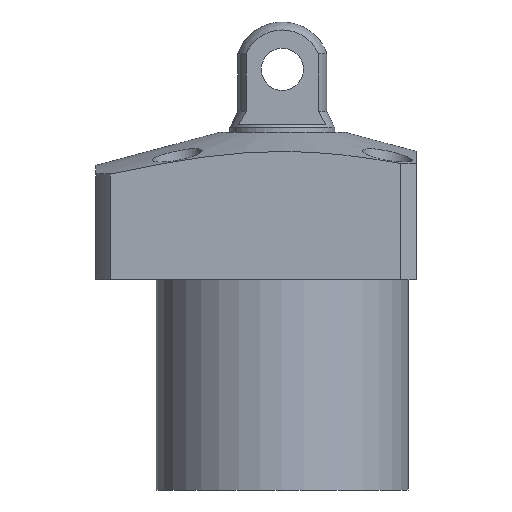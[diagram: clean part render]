
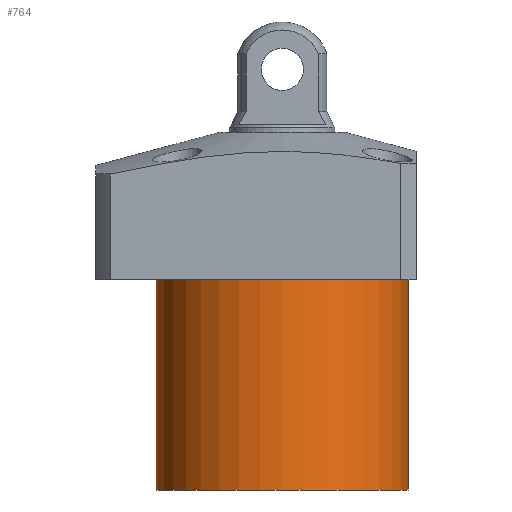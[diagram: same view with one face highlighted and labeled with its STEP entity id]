
A CAD part, front view. The second image highlights one B-rep face of the part: STEP entity #764.
In plain terms, the highlighted cylindrical face has radius 24 mm (diameter 48 mm), a partial arc.
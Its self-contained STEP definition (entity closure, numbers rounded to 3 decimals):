
#86 = ORIENTED_EDGE ( 'NONE', *, *, #206, .F. ) ;
#137 = CARTESIAN_POINT ( 'NONE',  ( 24., 0., -54. ) ) ;
#181 = CARTESIAN_POINT ( 'NONE',  ( -24., 0., -14. ) ) ;
#206 = EDGE_CURVE ( 'NONE', #448, #2064, #2000, .T. ) ;
#294 = ORIENTED_EDGE ( 'NONE', *, *, #1022, .T. ) ;
#448 = VERTEX_POINT ( 'NONE', #2006 ) ;
#450 = DIRECTION ( 'NONE',  ( 0., 0., -1. ) ) ;
#465 = LINE ( 'NONE', #137, #1619 ) ;
#535 = DIRECTION ( 'NONE',  ( 0., 0., -1. ) ) ;
#546 = VERTEX_POINT ( 'NONE', #1848 ) ;
#557 = CYLINDRICAL_SURFACE ( 'NONE', #1535, 24. ) ;
#665 = EDGE_CURVE ( 'NONE', #546, #1161, #2220, .T. ) ;
#714 = CARTESIAN_POINT ( 'NONE',  ( 0., 0., -54. ) ) ;
#764 = ADVANCED_FACE ( 'NONE', ( #2332 ), #557, .T. ) ;
#834 = DIRECTION ( 'NONE',  ( 1., 0., 0. ) ) ;
#891 = DIRECTION ( 'NONE',  ( -1., 0., 0. ) ) ;
#965 = EDGE_LOOP ( 'NONE', ( #1939, #86, #294, #2355 ) ) ;
#1022 = EDGE_CURVE ( 'NONE', #448, #546, #465, .T. ) ;
#1036 = EDGE_CURVE ( 'NONE', #2064, #1161, #1479, .T. ) ;
#1161 = VERTEX_POINT ( 'NONE', #181 ) ;
#1170 = DIRECTION ( 'NONE',  ( 1., 0., 0. ) ) ;
#1339 = CARTESIAN_POINT ( 'NONE',  ( 0., 0., -14. ) ) ;
#1479 = LINE ( 'NONE', #1949, #1534 ) ;
#1534 = VECTOR ( 'NONE', #2134, 1000. ) ;
#1535 = AXIS2_PLACEMENT_3D ( 'NONE', #1727, #1575, #834 ) ;
#1575 = DIRECTION ( 'NONE',  ( 0., 0., 1. ) ) ;
#1581 = DIRECTION ( 'NONE',  ( 0., 0., 1. ) ) ;
#1619 = VECTOR ( 'NONE', #1581, 1000. ) ;
#1711 = CARTESIAN_POINT ( 'NONE',  ( -24., 0., -54. ) ) ;
#1727 = CARTESIAN_POINT ( 'NONE',  ( 0., 0., -54. ) ) ;
#1848 = CARTESIAN_POINT ( 'NONE',  ( 24., 0., -14. ) ) ;
#1939 = ORIENTED_EDGE ( 'NONE', *, *, #1036, .F. ) ;
#1949 = CARTESIAN_POINT ( 'NONE',  ( -24., 0., -54. ) ) ;
#1953 = AXIS2_PLACEMENT_3D ( 'NONE', #714, #535, #891 ) ;
#1989 = AXIS2_PLACEMENT_3D ( 'NONE', #1339, #450, #1170 ) ;
#2000 = CIRCLE ( 'NONE', #1953, 24. ) ;
#2006 = CARTESIAN_POINT ( 'NONE',  ( 24., 0., -54. ) ) ;
#2064 = VERTEX_POINT ( 'NONE', #1711 ) ;
#2134 = DIRECTION ( 'NONE',  ( 0., 0., 1. ) ) ;
#2220 = CIRCLE ( 'NONE', #1989, 24. ) ;
#2332 = FACE_OUTER_BOUND ( 'NONE', #965, .T. ) ;
#2355 = ORIENTED_EDGE ( 'NONE', *, *, #665, .T. ) ;
